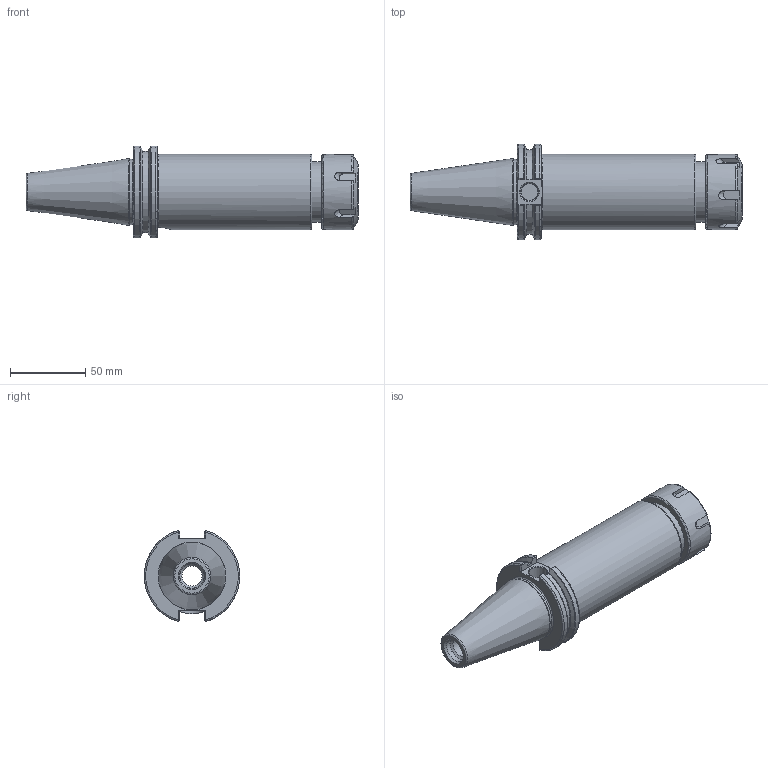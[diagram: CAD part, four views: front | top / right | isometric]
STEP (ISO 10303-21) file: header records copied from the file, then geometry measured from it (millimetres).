
FILE_DESCRIPTION(/* description */ (''),/* implementation_level */ '2;1');
FILE_NAME(/* name */ 'I:\2.客户确认模型及简图\2021.05.02---美国HAAS\CAT40-ER32-152.4示意图.stp',/* time_stamp */ '2021-05-02T13:07:21+08:00',/* author */ ('Administrator'),/* organization */ (''),/* preprocessor_version */ 'ST-DEVELOPER v18.1',/* originating_system */ 'Autodesk Inventor 2021',/* authorisation */ '');
FILE_SCHEMA (('AUTOMOTIVE_DESIGN { 1 0 10303 214 3 1 1 }'));
Length unit declared in the file: millimetre
Products named in the file (3): CAT40-ER32-152.4示意图; CAT40-ER32-152.4; ER32UM单偏心压帽最新版
Assembly tree (2 placements, depth 2):
  CAT40-ER32-152.4示意图
    CAT40-ER32-152.4
    ER32UM单偏心压帽最新版
Bounding box: 220.65 x 63.27 x 60.92 mm (x, y, z)
Volume: 297754.4 mm3; surface area: 55150.5 mm2
Topology: 2 solids, 2 shells, 149 faces, 427 edges, 288 vertices
Faces by surface type: plane 61, torus 26, cylinder 22, bspline 22, cone 18
Full cylindrical faces by diameter (mm): 12 x1, 13.386 x1, 16.281 x1, 20.376 x1, 23.5 x1, 27.17 x1, 32.5 x1, 38 x1, 38.376 x1, 40 x1, 40.5 x1, 43.5 x1, 50 x2
Entity records: 6009 total; most frequent: CARTESIAN_POINT 2153, ORIENTED_EDGE 854, DIRECTION 740, EDGE_CURVE 427, AXIS2_PLACEMENT_3D 292, VERTEX_POINT 288, EDGE_LOOP 159, CIRCLE 158
